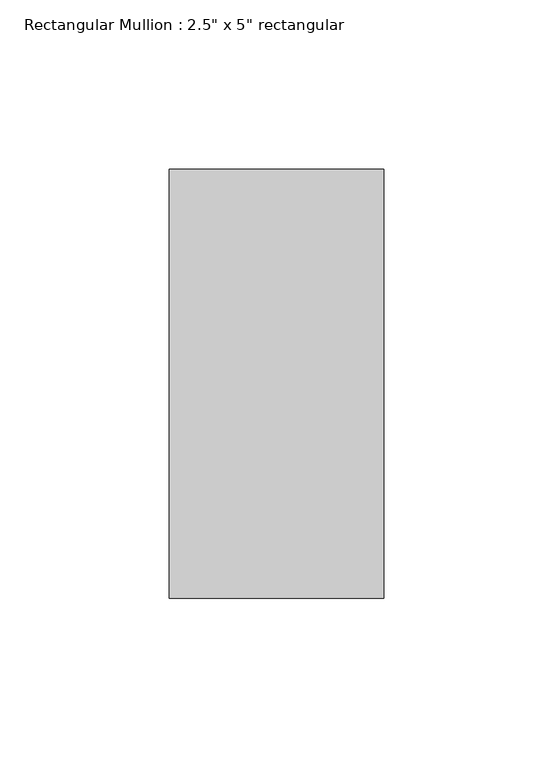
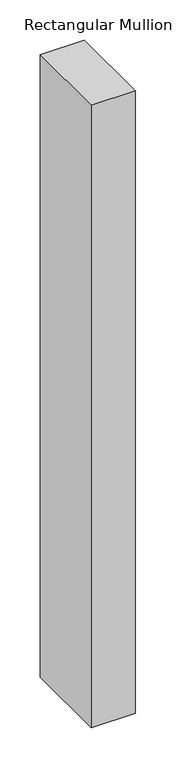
"""IFC4 building model written with IfcOpenShell, lengths in millimetres: member geometry."""

from ifc_helpers import new_model, si_unit, frame, origin, place, context, project, spatial, polyline, outline, extrude, source, transform, mapped, element, save


def member_8e96f1d0(model_context):
    return source(origin(), model_context, "Body", "SweptSolid", [
        extrude(outline(polyline([(0.0, 76.2), (0.0, -50.8), (-63.5, -50.8), (-63.5, 76.2), (0.0, 76.2)])), frame((0.0, 0.0, -945.636998), z_axis=(0.0, 0.0, 1.0), x_axis=(1.0, 0.0, 0.0)), (0.0, 0.0, 1.0), 945.636998),
    ])


if __name__ == "__main__":
    model = new_model("IFC4")
    model_context = context("Model", 3, world=origin())
    ifc_project = project(units=[si_unit("LENGTHUNIT", "METRE", prefix="MILLI")], contexts=[model_context])
    site = spatial("IfcSite", under=ifc_project)
    building = spatial("IfcBuilding", under=site)
    placement = place(None, origin())
    member_shape = member_8e96f1d0(model_context)
    element("IfcMember", 1, ObjectType="Rectangular Mullion : 2.5\" x 5\" rectangular", at=placement, inside=building, context=model_context, shape_type="MappedRepresentation", body=[
        mapped(member_shape, transform((0.0, 0.0, 0.0), x_axis=(1.0, 0.0, 0.0), y_axis=(0.0, 1.0, 0.0), z_axis=(0.0, 0.0, 1.0))),
    ])
    save(model, "model.ifc")
